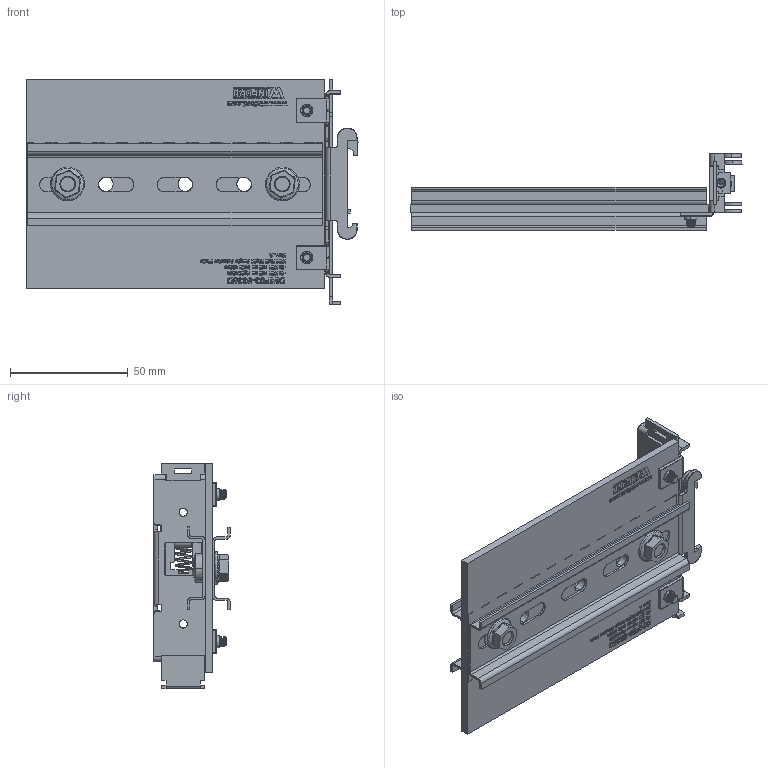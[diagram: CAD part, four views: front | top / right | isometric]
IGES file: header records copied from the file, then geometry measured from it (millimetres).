
Start section: SolidWorks IGES file using analytic representation for surfaces
Global section: file name: W:\end-user\products\dinp\dinp03-5035d\3dmodel\DINP03-5035D-2\rev_a\render\dinp03-5035d-2_rev_a.igs; native system: SolidWorks 2018; preprocessor: SolidWorks 2018; author: leviroy; date: 210610.110830; units: inch
Bounding box: 141.07 x 32.5 x 95.65 mm (x, y, z)
Surface area: 59808.9 mm2 (no closed solid volume)
Topology: 0 solids, 0 shells, 2889 faces, 28465 edges, 28438 vertices
Faces by surface type: bspline 2446, revolution 443
